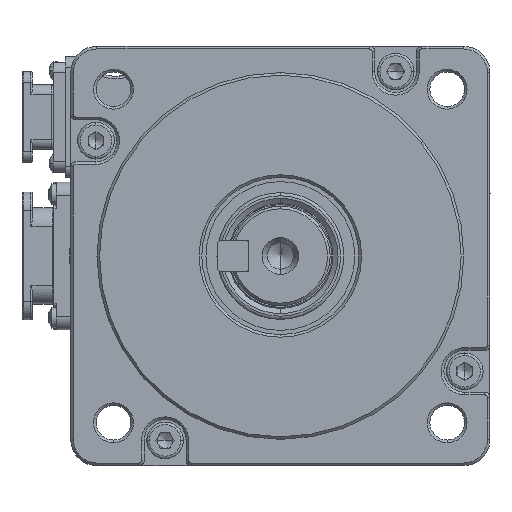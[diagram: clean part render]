
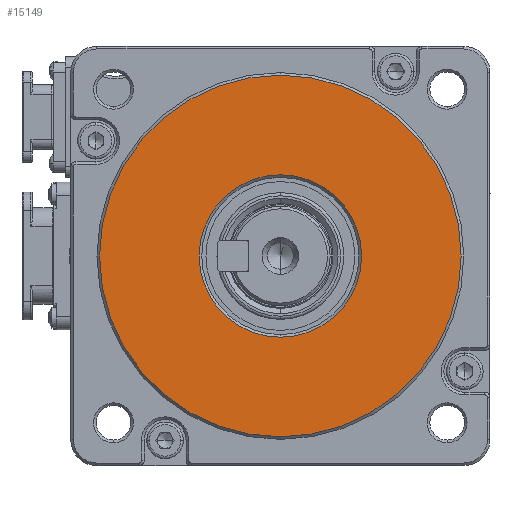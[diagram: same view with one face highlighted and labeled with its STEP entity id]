
A CAD part, left-side view. The second image highlights one B-rep face of the part: STEP entity #15149.
In plain terms, the highlighted planar face has unit normal (-1, 0, 0).
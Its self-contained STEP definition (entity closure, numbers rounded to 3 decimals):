
#1061 = CIRCLE ( 'NONE', #38108, 15.5 ) ;
#8106 = VERTEX_POINT ( 'NONE', #19584 ) ;
#10130 = AXIS2_PLACEMENT_3D ( 'NONE', #77388, #70586, #64421 ) ;
#10297 = FACE_BOUND ( 'NONE', #61654, .T. ) ;
#12641 = EDGE_LOOP ( 'NONE', ( #45714, #68444 ) ) ;
#14176 = CIRCLE ( 'NONE', #37086, 34.5 ) ;
#15149 = ADVANCED_FACE ( 'NONE', ( #57608, #10297 ), #20302, .T. ) ;
#19584 = CARTESIAN_POINT ( 'NONE',  ( -47.901, -5.319, 167.718 ) ) ;
#20302 = PLANE ( 'NONE',  #38952 ) ;
#21775 = EDGE_CURVE ( 'NONE', #29746, #8106, #1061, .T. ) ;
#23429 = DIRECTION ( 'NONE',  ( -1., 0., 0. ) ) ;
#23496 = DIRECTION ( 'NONE',  ( 1., 0., 0. ) ) ;
#27072 = CARTESIAN_POINT ( 'NONE',  ( -47.901, -5.319, 152.218 ) ) ;
#27569 = VERTEX_POINT ( 'NONE', #72979 ) ;
#29055 = CARTESIAN_POINT ( 'NONE',  ( -47.901, -5.319, 136.718 ) ) ;
#29746 = VERTEX_POINT ( 'NONE', #29055 ) ;
#37086 = AXIS2_PLACEMENT_3D ( 'NONE', #50168, #23429, #49887 ) ;
#38108 = AXIS2_PLACEMENT_3D ( 'NONE', #84234, #23496, #71341 ) ;
#38952 = AXIS2_PLACEMENT_3D ( 'NONE', #27072, #67285, #42574 ) ;
#40490 = DIRECTION ( 'NONE',  ( 1., 0., 0. ) ) ;
#42178 = CIRCLE ( 'NONE', #48808, 15.5 ) ;
#42574 = DIRECTION ( 'NONE',  ( 0., 0., 1. ) ) ;
#45714 = ORIENTED_EDGE ( 'NONE', *, *, #78028, .T. ) ;
#46888 = EDGE_CURVE ( 'NONE', #27569, #56458, #71760, .T. ) ;
#48505 = ORIENTED_EDGE ( 'NONE', *, *, #21775, .T. ) ;
#48808 = AXIS2_PLACEMENT_3D ( 'NONE', #80946, #40490, #68296 ) ;
#49261 = ORIENTED_EDGE ( 'NONE', *, *, #84015, .T. ) ;
#49887 = DIRECTION ( 'NONE',  ( 0., 0., 1. ) ) ;
#50168 = CARTESIAN_POINT ( 'NONE',  ( -47.901, -5.319, 152.218 ) ) ;
#56458 = VERTEX_POINT ( 'NONE', #83745 ) ;
#57608 = FACE_OUTER_BOUND ( 'NONE', #12641, .T. ) ;
#61654 = EDGE_LOOP ( 'NONE', ( #49261, #48505 ) ) ;
#64421 = DIRECTION ( 'NONE',  ( 0., 0., 1. ) ) ;
#67285 = DIRECTION ( 'NONE',  ( -1., 0., 0. ) ) ;
#68296 = DIRECTION ( 'NONE',  ( 0., 0., 1. ) ) ;
#68444 = ORIENTED_EDGE ( 'NONE', *, *, #46888, .T. ) ;
#70586 = DIRECTION ( 'NONE',  ( -1., 0., 0. ) ) ;
#71341 = DIRECTION ( 'NONE',  ( 0., 0., 1. ) ) ;
#71760 = CIRCLE ( 'NONE', #10130, 34.5 ) ;
#72979 = CARTESIAN_POINT ( 'NONE',  ( -47.901, -5.319, 186.718 ) ) ;
#77388 = CARTESIAN_POINT ( 'NONE',  ( -47.901, -5.319, 152.218 ) ) ;
#78028 = EDGE_CURVE ( 'NONE', #56458, #27569, #14176, .T. ) ;
#80946 = CARTESIAN_POINT ( 'NONE',  ( -47.901, -5.319, 152.218 ) ) ;
#83745 = CARTESIAN_POINT ( 'NONE',  ( -47.901, -5.319, 117.718 ) ) ;
#84015 = EDGE_CURVE ( 'NONE', #8106, #29746, #42178, .T. ) ;
#84234 = CARTESIAN_POINT ( 'NONE',  ( -47.901, -5.319, 152.218 ) ) ;
